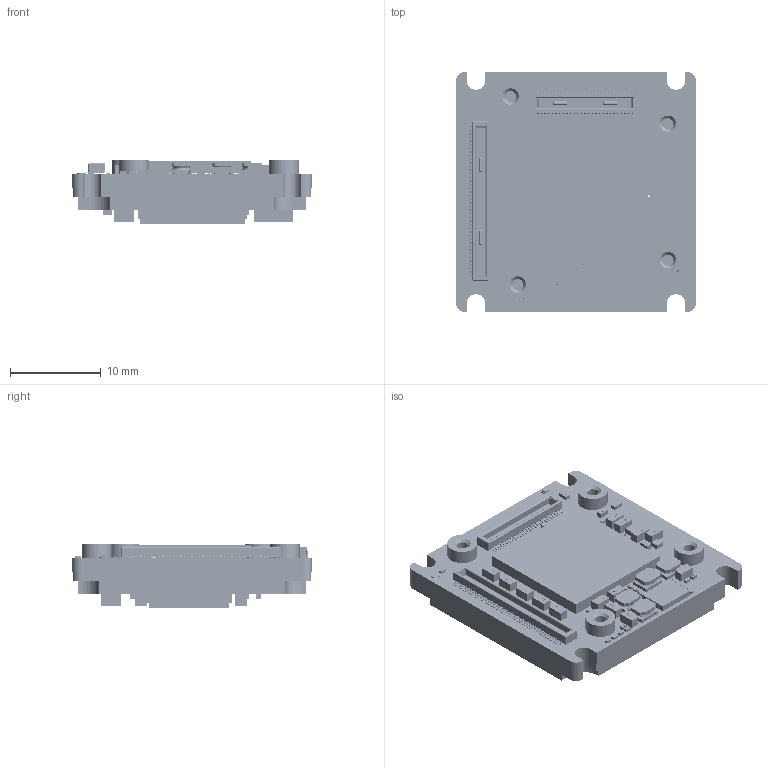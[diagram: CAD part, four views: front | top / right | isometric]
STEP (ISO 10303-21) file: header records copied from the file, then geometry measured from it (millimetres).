
FILE_DESCRIPTION (( 'STEP AP214' ), '1' );
FILE_NAME ('Alvium-Extended-Bare-Board-IMX900.STEP', '2024-03-22T10:01:35', ( '' ), ( '' ), 'SwSTEP 2.0', 'SolidWorks 2021', '' );
FILE_SCHEMA (( 'AUTOMOTIVE_DESIGN' ));
Length unit declared in the file: millimetre
Products named in the file (1): Alvium-Extended-Bare-Board-IMX900
Bounding box: 26.4 x 26.4 x 7.04 mm (x, y, z)
Volume: 3166.8 mm3; surface area: 3911.7 mm2
Topology: 162 solids, 162 shells, 11083 faces, 28188 edges, 18384 vertices
Faces by surface type: plane 5900, bspline 4165, cylinder 954, torus 40, cone 24
Entity records: 693184 total; most frequent: CARTESIAN_POINT 329709, ORIENTED_EDGE 56360, DIRECTION 35556, EDGE_CURVE 28180, VERTEX_POINT 18384, LINE 17790, VECTOR 17790, EDGE_LOOP 12054
